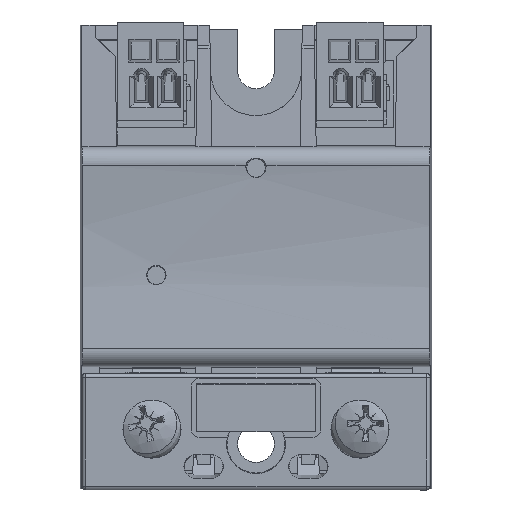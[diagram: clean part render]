
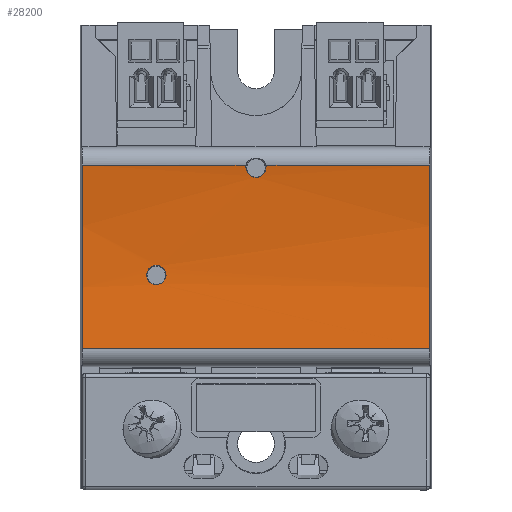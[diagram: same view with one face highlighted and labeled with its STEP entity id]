
A CAD part, top view. The second image highlights one B-rep face of the part: STEP entity #28200.
In plain terms, the highlighted cylindrical face has radius 80 mm (diameter 160 mm), a partial arc.
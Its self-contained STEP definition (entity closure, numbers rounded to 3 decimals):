
#25415=CARTESIAN_POINT('',(0.962,10.625,28.484));
#25416=VERTEX_POINT('',#25415);
#25417=CARTESIAN_POINT('',(-0.962,10.625,28.484));
#25418=VERTEX_POINT('',#25417);
#25444=CARTESIAN_POINT('',(-12.7,-3.542,27.853));
#25445=VERTEX_POINT('',#25444);
#25446=CARTESIAN_POINT('',(-12.7,-3.542,27.853));
#25447=CARTESIAN_POINT('',(-12.85,-3.542,27.853));
#25448=CARTESIAN_POINT('',(-13.011,-3.513,27.852));
#25449=CARTESIAN_POINT('',(-13.309,-3.395,27.846));
#25450=CARTESIAN_POINT('',(-13.445,-3.305,27.843));
#25451=CARTESIAN_POINT('',(-13.665,-3.097,27.834));
#25452=CARTESIAN_POINT('',(-13.763,-2.962,27.829));
#25453=CARTESIAN_POINT('',(-13.896,-2.665,27.819));
#25454=CARTESIAN_POINT('',(-13.931,-2.503,27.814));
#25455=CARTESIAN_POINT('',(-13.941,-2.194,27.804));
#25456=CARTESIAN_POINT('',(-13.913,-2.026,27.8));
#25457=CARTESIAN_POINT('',(-13.793,-1.717,27.793));
#25458=CARTESIAN_POINT('',(-13.699,-1.575,27.79));
#25459=CARTESIAN_POINT('',(-13.479,-1.349,27.786));
#25460=CARTESIAN_POINT('',(-13.338,-1.25,27.784));
#25461=CARTESIAN_POINT('',(-13.028,-1.119,27.782));
#25462=CARTESIAN_POINT('',(-12.859,-1.087,27.782));
#25463=CARTESIAN_POINT('',(-12.542,-1.087,27.782));
#25464=CARTESIAN_POINT('',(-12.373,-1.119,27.782));
#25465=CARTESIAN_POINT('',(-12.063,-1.249,27.784));
#25466=CARTESIAN_POINT('',(-11.922,-1.348,27.786));
#25467=CARTESIAN_POINT('',(-11.702,-1.574,27.79));
#25468=CARTESIAN_POINT('',(-11.608,-1.715,27.793));
#25469=CARTESIAN_POINT('',(-11.487,-2.025,27.8));
#25470=CARTESIAN_POINT('',(-11.459,-2.193,27.804));
#25471=CARTESIAN_POINT('',(-11.469,-2.503,27.814));
#25472=CARTESIAN_POINT('',(-11.504,-2.666,27.819));
#25473=CARTESIAN_POINT('',(-11.638,-2.963,27.829));
#25474=CARTESIAN_POINT('',(-11.736,-3.098,27.834));
#25475=CARTESIAN_POINT('',(-11.956,-3.306,27.843));
#25476=CARTESIAN_POINT('',(-12.092,-3.395,27.846));
#25477=CARTESIAN_POINT('',(-12.389,-3.513,27.852));
#25478=CARTESIAN_POINT('',(-12.55,-3.542,27.853));
#25479=CARTESIAN_POINT('',(-12.7,-3.542,27.853));
#25480=B_SPLINE_CURVE_WITH_KNOTS('',3,(#25446,#25447,#25448,#25449,#25450,#25451,#25452,#25453,#25454,#25455,#25456,#25457,#25458,#25459,#25460,#25461,#25462,#25463,#25464,#25465,#25466,#25467,#25468,#25469,#25470,#25471,#25472,#25473,#25474,#25475,#25476,#25477,#25478,#25479),.UNSPECIFIED.,.T.,.U.,(4,2,2,2,2,2,2,2,2,2,2,2,2,2,2,2,4),(0.0,0.045,0.09,0.136,0.182,0.229,0.276,0.324,0.371,0.419,0.466,0.514,0.561,0.607,0.653,0.698,0.743),.UNSPECIFIED.);
#25481=EDGE_CURVE('',#25445,#25445,#25480,.T.);
#25491=CARTESIAN_POINT('',(-0.962,10.625,28.484));
#25492=CARTESIAN_POINT('',(-0.922,10.568,28.477));
#25493=CARTESIAN_POINT('',(-0.878,10.516,28.47));
#25494=CARTESIAN_POINT('',(-0.727,10.365,28.45));
#25495=CARTESIAN_POINT('',(-0.595,10.275,28.438));
#25496=CARTESIAN_POINT('',(-0.305,10.155,28.423));
#25497=CARTESIAN_POINT('',(-0.148,10.125,28.419));
#25498=CARTESIAN_POINT('',(0.147,10.125,28.419));
#25499=CARTESIAN_POINT('',(0.305,10.154,28.423));
#25500=CARTESIAN_POINT('',(0.594,10.274,28.438));
#25501=CARTESIAN_POINT('',(0.725,10.364,28.45));
#25502=CARTESIAN_POINT('',(0.877,10.515,28.47));
#25503=CARTESIAN_POINT('',(0.921,10.568,28.477));
#25504=CARTESIAN_POINT('',(0.962,10.625,28.484));
#25505=B_SPLINE_CURVE_WITH_KNOTS('',3,(#25491,#25492,#25493,#25494,#25495,#25496,#25497,#25498,#25499,#25500,#25501,#25502,#25503,#25504),.UNSPECIFIED.,.F.,.U.,(4,2,2,2,2,2,4),(0.247,0.267,0.312,0.356,0.4,0.444,0.465),.UNSPECIFIED.);
#25506=EDGE_CURVE('',#25418,#25416,#25505,.T.);
#28092=CARTESIAN_POINT('',(1.267,11.688,28.634));
#28093=VERTEX_POINT('',#28092);
#28094=CARTESIAN_POINT('',(1.267,11.688,28.634));
#28095=CARTESIAN_POINT('',(1.287,11.557,28.615));
#28096=CARTESIAN_POINT('',(1.286,11.424,28.596));
#28097=CARTESIAN_POINT('',(1.247,11.149,28.556));
#28098=CARTESIAN_POINT('',(1.196,10.991,28.534));
#28099=CARTESIAN_POINT('',(1.073,10.768,28.504));
#28100=CARTESIAN_POINT('',(1.02,10.693,28.494));
#28101=CARTESIAN_POINT('',(0.962,10.625,28.484));
#28102=B_SPLINE_CURVE_WITH_KNOTS('',3,(#28094,#28095,#28096,#28097,#28098,#28099,#28100,#28101),.UNSPECIFIED.,.F.,.U.,(4,2,2,4),(0.57,0.608,0.654,0.68),.UNSPECIFIED.);
#28103=EDGE_CURVE('',#28093,#25416,#28102,.T.);
#28105=CARTESIAN_POINT('',(-1.267,11.688,28.634));
#28106=VERTEX_POINT('',#28105);
#28132=CARTESIAN_POINT('',(-0.962,10.625,28.484));
#28133=CARTESIAN_POINT('',(-1.02,10.693,28.494));
#28134=CARTESIAN_POINT('',(-1.073,10.768,28.504));
#28135=CARTESIAN_POINT('',(-1.196,10.991,28.534));
#28136=CARTESIAN_POINT('',(-1.247,11.149,28.556));
#28137=CARTESIAN_POINT('',(-1.286,11.424,28.596));
#28138=CARTESIAN_POINT('',(-1.287,11.557,28.615));
#28139=CARTESIAN_POINT('',(-1.267,11.688,28.634));
#28140=B_SPLINE_CURVE_WITH_KNOTS('',3,(#28132,#28133,#28134,#28135,#28136,#28137,#28138,#28139),.UNSPECIFIED.,.F.,.U.,(4,2,2,4),(0.105,0.131,0.177,0.215),.UNSPECIFIED.);
#28141=EDGE_CURVE('',#25418,#28106,#28140,.T.);
#28147=CARTESIAN_POINT('',(0.,-0.008,107.775));
#28148=DIRECTION('',(1.0,0.,0.));
#28149=DIRECTION('',(0.,0.174,-0.985));
#28150=AXIS2_PLACEMENT_3D('',#28147,#28148,#28149);
#28151=CYLINDRICAL_SURFACE('',#28150,80.);
#28152=ORIENTED_EDGE('',*,*,#28103,.T.);
#28153=ORIENTED_EDGE('',*,*,#25506,.F.);
#28154=ORIENTED_EDGE('',*,*,#28141,.T.);
#28155=CARTESIAN_POINT('',(-22.145,11.688,28.634));
#28156=VERTEX_POINT('',#28155);
#28157=CARTESIAN_POINT('',(-22.145,11.688,28.634));
#28158=DIRECTION('',(1.0,0.0,0.0));
#28159=VECTOR('',#28158,20.878);
#28160=LINE('',#28157,#28159);
#28161=EDGE_CURVE('',#28156,#28106,#28160,.T.);
#28162=ORIENTED_EDGE('',*,*,#28161,.F.);
#28163=CARTESIAN_POINT('',(-22.145,-11.704,28.634));
#28164=VERTEX_POINT('',#28163);
#28165=CARTESIAN_POINT('',(-20.763,-0.008,107.775));
#28166=DIRECTION('',(1.,0.,-0.017));
#28167=DIRECTION('',(-0.017,0.,-1.));
#28168=AXIS2_PLACEMENT_3D('',#28165,#28166,#28167);
#28169=ELLIPSE('',#28168,80.012,80.0);
#28170=EDGE_CURVE('',#28164,#28156,#28169,.T.);
#28171=ORIENTED_EDGE('',*,*,#28170,.F.);
#28172=CARTESIAN_POINT('',(22.145,-11.704,28.634));
#28173=VERTEX_POINT('',#28172);
#28174=CARTESIAN_POINT('',(22.145,-11.704,28.634));
#28175=DIRECTION('',(-1.0,0.0,0.0));
#28176=VECTOR('',#28175,44.289);
#28177=LINE('',#28174,#28176);
#28178=EDGE_CURVE('',#28173,#28164,#28177,.T.);
#28179=ORIENTED_EDGE('',*,*,#28178,.F.);
#28180=CARTESIAN_POINT('',(22.145,11.688,28.634));
#28181=VERTEX_POINT('',#28180);
#28182=CARTESIAN_POINT('',(20.763,-0.008,107.775));
#28183=DIRECTION('',(-1.,0.,-0.017));
#28184=DIRECTION('',(0.017,0.,-1.));
#28185=AXIS2_PLACEMENT_3D('',#28182,#28183,#28184);
#28186=ELLIPSE('',#28185,80.012,80.0);
#28187=EDGE_CURVE('',#28181,#28173,#28186,.T.);
#28188=ORIENTED_EDGE('',*,*,#28187,.F.);
#28189=CARTESIAN_POINT('',(1.267,11.688,28.634));
#28190=DIRECTION('',(1.0,0.0,0.0));
#28191=VECTOR('',#28190,20.878);
#28192=LINE('',#28189,#28191);
#28193=EDGE_CURVE('',#28093,#28181,#28192,.T.);
#28194=ORIENTED_EDGE('',*,*,#28193,.F.);
#28195=EDGE_LOOP('',(#28152,#28153,#28154,#28162,#28171,#28179,#28188,#28194));
#28196=FACE_OUTER_BOUND('',#28195,.T.);
#28197=ORIENTED_EDGE('',*,*,#25481,.T.);
#28198=EDGE_LOOP('',(#28197));
#28199=FACE_BOUND('',#28198,.T.);
#28200=ADVANCED_FACE('',(#28196,#28199),#28151,.F.);
